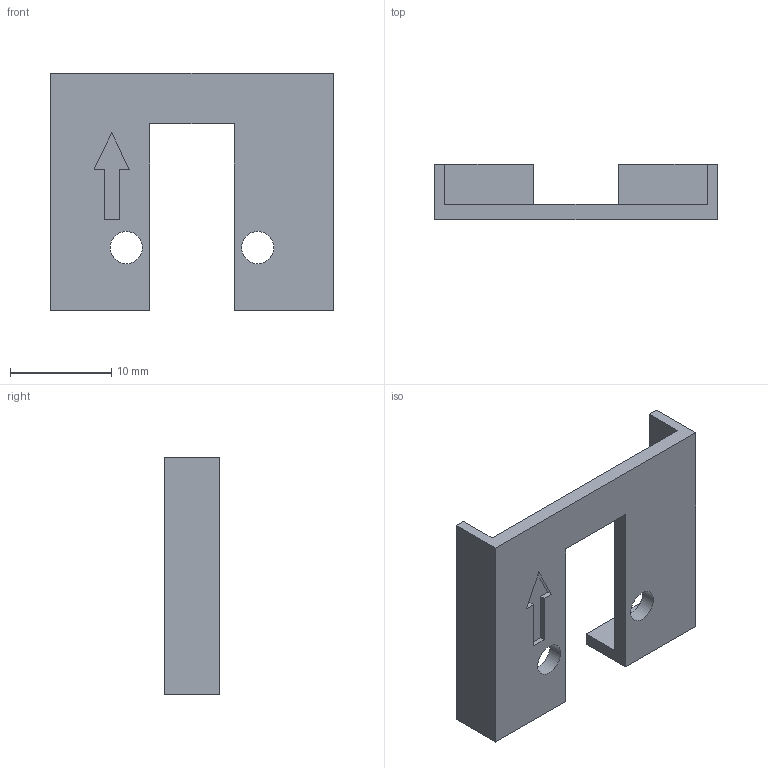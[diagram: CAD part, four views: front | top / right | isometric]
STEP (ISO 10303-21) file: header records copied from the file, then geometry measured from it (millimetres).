
FILE_DESCRIPTION(/* description */ (''),/* implementation_level */ '2;1');
FILE_NAME(/* name */ 'C:\Users\Banwz\Desktop\ВИМ\Агронабор\Агронабор Релиз\Насадки\Вилка\Крышка Насадки вилки.stp',/* time_stamp */ '2023-05-04T00:17:30+03:00',/* author */ ('Banwz'),/* organization */ (''),/* preprocessor_version */ 'ST-DEVELOPER v18.1',/* originating_system */ 'Autodesk Inventor 2021',/* authorisation */ '');
FILE_SCHEMA (('AUTOMOTIVE_DESIGN { 1 0 10303 214 3 1 1 }'));
Length unit declared in the file: millimetre
Products named in the file (1): Крышка Насадки 
вилки
Bounding box: 28 x 5.5 x 23.5 mm (x, y, z)
Volume: 998.9 mm3; surface area: 1756.7 mm2
Topology: 1 solids, 1 shells, 26 faces, 69 edges, 46 vertices
Faces by surface type: plane 24, cylinder 2
Full cylindrical faces by diameter (mm): 3.2 x2
Entity records: 846 total; most frequent: CARTESIAN_POINT 142, ORIENTED_EDGE 138, DIRECTION 127, EDGE_CURVE 69, LINE 65, VECTOR 65, VERTEX_POINT 46, EDGE_LOOP 31
